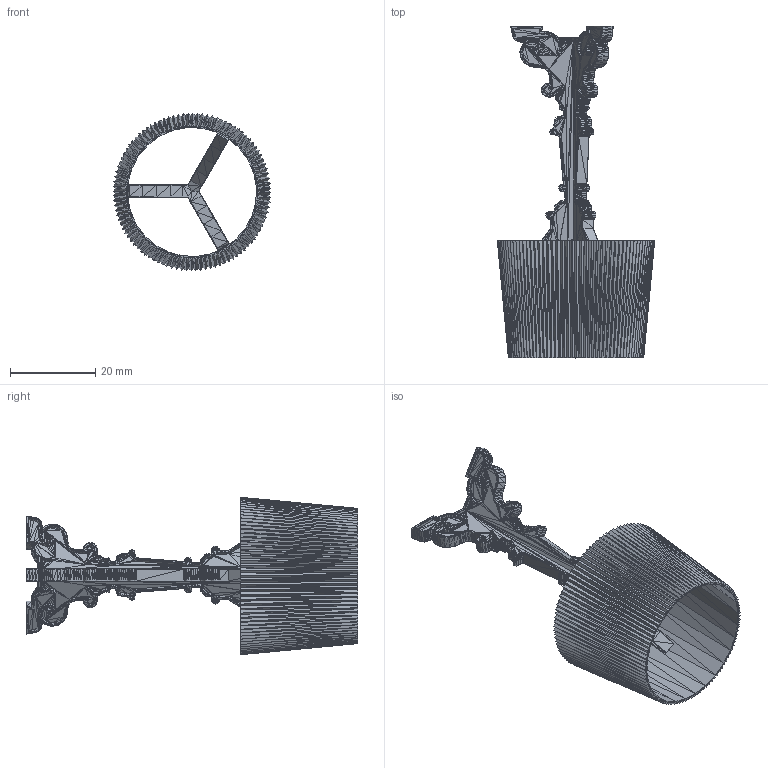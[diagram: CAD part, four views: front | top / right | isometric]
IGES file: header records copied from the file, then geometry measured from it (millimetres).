
Global section: file name: Filename.iges; native system: Open CASCADE 6.5; preprocessor: Open CASCADE IGES processor 6.5; author: gio; date: 20140202.165042; units: millimetre
Bounding box: 37 x 77.93 x 37 mm (x, y, z)
Surface area: 12328.1 mm2 (no closed solid volume)
Topology: 0 solids, 0 shells, 13722 faces, 41166 edges, 41166 vertices
Faces by surface type: bspline 13722
